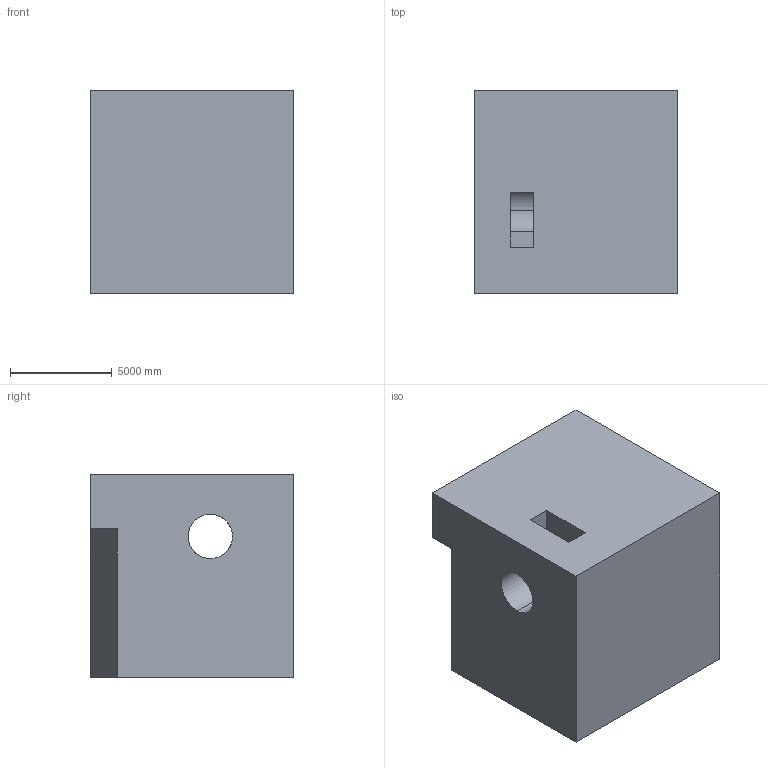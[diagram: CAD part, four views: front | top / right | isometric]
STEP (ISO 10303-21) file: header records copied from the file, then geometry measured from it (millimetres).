
FILE_DESCRIPTION (( 'STEP AP203' ), '1' );
FILE_NAME ('1352.STEP', '2022-08-18T13:59:57', ( 'user' ), ( '' ), 'SwSTEP 2.0', 'SolidWorks 2021', '' );
FILE_SCHEMA (( 'CONFIG_CONTROL_DESIGN' ));
Length unit declared in the file: centimetre
Products named in the file (1): 1352
Bounding box: 10000 x 10000 x 10000 mm (x, y, z)
Volume: 862856018833.7 mm3; surface area: 721279885.8 mm2
Topology: 1 solids, 1 shells, 20 faces, 60 edges, 40 vertices
Faces by surface type: plane 15, cylinder 5
Entity records: 1227 total; most frequent: CARTESIAN_POINT 593, ORIENTED_EDGE 120, DIRECTION 110, EDGE_CURVE 60, VERTEX_POINT 40, VECTOR 40, LINE 40, AXIS2_PLACEMENT_3D 35
